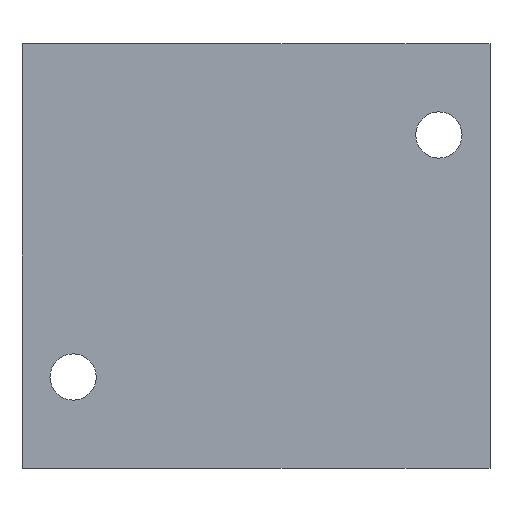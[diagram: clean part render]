
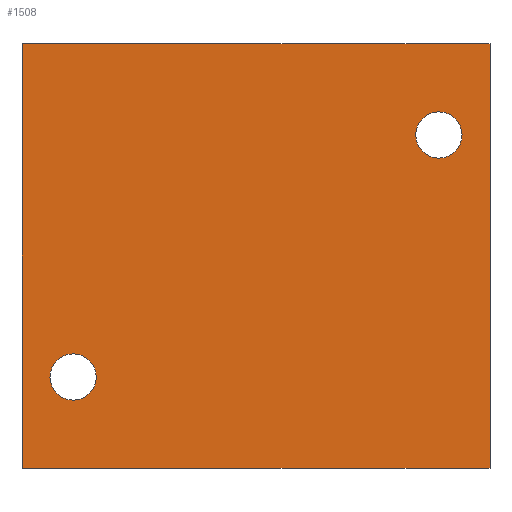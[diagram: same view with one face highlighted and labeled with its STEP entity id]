
A CAD part, front view. The second image highlights one B-rep face of the part: STEP entity #1508.
In plain terms, the highlighted planar face has unit normal (0, -1, 0).
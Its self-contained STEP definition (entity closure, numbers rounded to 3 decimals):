
#40 = CARTESIAN_POINT ( 'NONE',  ( 43.5, -30., 39.5 ) ) ;
#90 = DIRECTION ( 'NONE',  ( 1., 0., 0. ) ) ;
#113 = EDGE_CURVE ( 'NONE', #1766, #594, #1463, .T. ) ;
#124 = VECTOR ( 'NONE', #744, 1000. ) ;
#125 = CIRCLE ( 'NONE', #1533, 4.3 ) ;
#126 = CARTESIAN_POINT ( 'NONE',  ( -43.5, -30., 39.5 ) ) ;
#128 = EDGE_LOOP ( 'NONE', ( #1706, #749, #1272, #777 ) ) ;
#174 = VERTEX_POINT ( 'NONE', #882 ) ;
#220 = EDGE_CURVE ( 'NONE', #1687, #980, #1208, .T. ) ;
#232 = AXIS2_PLACEMENT_3D ( 'NONE', #400, #1154, #1611 ) ;
#239 = LINE ( 'NONE', #1787, #1038 ) ;
#247 = CARTESIAN_POINT ( 'NONE',  ( -34., -30., -26.8 ) ) ;
#283 = EDGE_CURVE ( 'NONE', #926, #174, #1467, .T. ) ;
#297 = CARTESIAN_POINT ( 'NONE',  ( -43.5, -30., -39.5 ) ) ;
#307 = EDGE_CURVE ( 'NONE', #489, #1687, #822, .T. ) ;
#308 = EDGE_CURVE ( 'NONE', #594, #1766, #125, .T. ) ;
#345 = EDGE_CURVE ( 'NONE', #693, #980, #239, .T. ) ;
#356 = CARTESIAN_POINT ( 'NONE',  ( -34., -30., -22.5 ) ) ;
#400 = CARTESIAN_POINT ( 'NONE',  ( 34., -30., 22.5 ) ) ;
#489 = VERTEX_POINT ( 'NONE', #978 ) ;
#558 = CARTESIAN_POINT ( 'NONE',  ( 34., -30., 18.2 ) ) ;
#584 = AXIS2_PLACEMENT_3D ( 'NONE', #1767, #680, #1594 ) ;
#594 = VERTEX_POINT ( 'NONE', #247 ) ;
#675 = DIRECTION ( 'NONE',  ( 0., 0., 1. ) ) ;
#680 = DIRECTION ( 'NONE',  ( 0., -1., 0. ) ) ;
#693 = VERTEX_POINT ( 'NONE', #297 ) ;
#744 = DIRECTION ( 'NONE',  ( 0., 0., -1. ) ) ;
#749 = ORIENTED_EDGE ( 'NONE', *, *, #220, .F. ) ;
#777 = ORIENTED_EDGE ( 'NONE', *, *, #1774, .T. ) ;
#822 = LINE ( 'NONE', #1459, #1267 ) ;
#846 = EDGE_LOOP ( 'NONE', ( #1903, #1829 ) ) ;
#855 = EDGE_LOOP ( 'NONE', ( #957, #1371 ) ) ;
#882 = CARTESIAN_POINT ( 'NONE',  ( 34., -30., 26.8 ) ) ;
#896 = AXIS2_PLACEMENT_3D ( 'NONE', #1891, #1455, #675 ) ;
#926 = VERTEX_POINT ( 'NONE', #558 ) ;
#957 = ORIENTED_EDGE ( 'NONE', *, *, #308, .F. ) ;
#973 = DIRECTION ( 'NONE',  ( 0., 0., -1. ) ) ;
#978 = CARTESIAN_POINT ( 'NONE',  ( -43.5, -30., 39.5 ) ) ;
#980 = VERTEX_POINT ( 'NONE', #984 ) ;
#984 = CARTESIAN_POINT ( 'NONE',  ( 43.5, -30., -39.5 ) ) ;
#1023 = DIRECTION ( 'NONE',  ( 0., -1., 0. ) ) ;
#1024 = LINE ( 'NONE', #126, #124 ) ;
#1038 = VECTOR ( 'NONE', #90, 1000. ) ;
#1057 = CARTESIAN_POINT ( 'NONE',  ( -34., -30., -18.2 ) ) ;
#1154 = DIRECTION ( 'NONE',  ( 0., -1., 0. ) ) ;
#1208 = LINE ( 'NONE', #1815, #1434 ) ;
#1262 = DIRECTION ( 'NONE',  ( 0., 0., -1. ) ) ;
#1267 = VECTOR ( 'NONE', #1423, 1000. ) ;
#1269 = PLANE ( 'NONE',  #896 ) ;
#1272 = ORIENTED_EDGE ( 'NONE', *, *, #307, .F. ) ;
#1279 = FACE_BOUND ( 'NONE', #855, .T. ) ;
#1347 = CIRCLE ( 'NONE', #232, 4.3 ) ;
#1360 = EDGE_CURVE ( 'NONE', #174, #926, #1347, .T. ) ;
#1371 = ORIENTED_EDGE ( 'NONE', *, *, #113, .F. ) ;
#1423 = DIRECTION ( 'NONE',  ( 1., 0., 0. ) ) ;
#1434 = VECTOR ( 'NONE', #1662, 1000. ) ;
#1455 = DIRECTION ( 'NONE',  ( 0., 1., 0. ) ) ;
#1459 = CARTESIAN_POINT ( 'NONE',  ( -43.5, -30., 39.5 ) ) ;
#1463 = CIRCLE ( 'NONE', #1883, 4.3 ) ;
#1467 = CIRCLE ( 'NONE', #584, 4.3 ) ;
#1472 = FACE_BOUND ( 'NONE', #846, .T. ) ;
#1508 = ADVANCED_FACE ( 'NONE', ( #1472, #1279, #1605 ), #1269, .F. ) ;
#1533 = AXIS2_PLACEMENT_3D ( 'NONE', #1928, #1582, #1262 ) ;
#1582 = DIRECTION ( 'NONE',  ( 0., -1., 0. ) ) ;
#1594 = DIRECTION ( 'NONE',  ( 0., 0., -1. ) ) ;
#1605 = FACE_OUTER_BOUND ( 'NONE', #128, .T. ) ;
#1611 = DIRECTION ( 'NONE',  ( 0., 0., -1. ) ) ;
#1662 = DIRECTION ( 'NONE',  ( 0., 0., -1. ) ) ;
#1687 = VERTEX_POINT ( 'NONE', #40 ) ;
#1706 = ORIENTED_EDGE ( 'NONE', *, *, #345, .T. ) ;
#1766 = VERTEX_POINT ( 'NONE', #1057 ) ;
#1767 = CARTESIAN_POINT ( 'NONE',  ( 34., -30., 22.5 ) ) ;
#1774 = EDGE_CURVE ( 'NONE', #489, #693, #1024, .T. ) ;
#1787 = CARTESIAN_POINT ( 'NONE',  ( -43.5, -30., -39.5 ) ) ;
#1815 = CARTESIAN_POINT ( 'NONE',  ( 43.5, -30., 39.5 ) ) ;
#1829 = ORIENTED_EDGE ( 'NONE', *, *, #1360, .F. ) ;
#1883 = AXIS2_PLACEMENT_3D ( 'NONE', #356, #1023, #973 ) ;
#1891 = CARTESIAN_POINT ( 'NONE',  ( -43.5, -30., 39.5 ) ) ;
#1903 = ORIENTED_EDGE ( 'NONE', *, *, #283, .F. ) ;
#1928 = CARTESIAN_POINT ( 'NONE',  ( -34., -30., -22.5 ) ) ;
